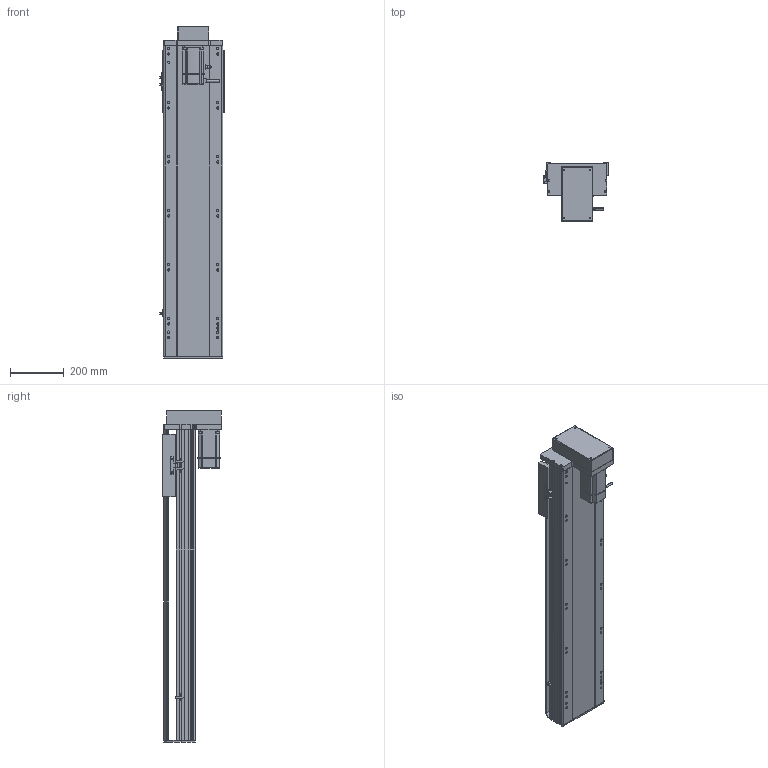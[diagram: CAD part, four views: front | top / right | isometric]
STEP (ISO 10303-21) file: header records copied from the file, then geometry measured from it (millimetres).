
FILE_DESCRIPTION (( 'STEP AP214' ), '1' );
FILE_NAME ('RTH22-XX-850-M-M75-C4.STEP', '2025-10-24T11:10:05', ( 'Microsoft' ), ( 'Microsoft' ), 'SwSTEP 2.0', 'SolidWorks 2018', '' );
FILE_SCHEMA (( 'AUTOMOTIVE_DESIGN' ));
Length unit declared in the file: millimetre
Products named in the file (10): N_RTH22-GY-013外置感应片^RTH22-XX-XX-M-M75-C4; N_RTH22-M-007奻裔^RTH22-XX-XX-M-M75-C4; N_RTH22-L-004-SFS25賑釱^RTH22-XX-XX-M-M75-C4; N_RTH22-L-011菁釱^RTH22-XX-XX-M-M75-C4; RTH22-XX-850-M-M75-C4; N_OMRON EE-SX672 传感器^RTH22-XX-XX-M-M75-C4; N_RTH22-GY-001耜裔^RTH22-XX-XX-M-M75-C4; N_750W萇儂^RTH22-XX-XX-M-M75-C4; N_RTH22-M-008-P75萇儂啣^RTH22-XX-XX-M-M75-C4; N_RTH22-M-018裔赽^RTH22-XX-XX-M-M75-C4
Assembly tree (11 placements, depth 2):
  RTH22-XX-850-M-M75-C4
    N_RTH22-L-011菁釱^RTH22-XX-XX-M-M75-C4
    N_RTH22-GY-001耜裔^RTH22-XX-XX-M-M75-C4
    N_750W萇儂^RTH22-XX-XX-M-M75-C4
    N_RTH22-M-008-P75萇儂啣^RTH22-XX-XX-M-M75-C4
    N_RTH22-M-007奻裔^RTH22-XX-XX-M-M75-C4
    N_RTH22-M-018裔赽^RTH22-XX-XX-M-M75-C4
    N_OMRON EE-SX672 传感器^RTH22-XX-XX-M-M75-C4  x3
    N_RTH22-GY-013外置感应片^RTH22-XX-XX-M-M75-C4
    N_RTH22-L-004-SFS25賑釱^RTH22-XX-XX-M-M75-C4
Bounding box: 238.5 x 218.5 x 1229.7 mm (x, y, z)
Volume: 17081041 mm3; surface area: 1893933.8 mm2
Topology: 11 solids, 11 shells, 1623 faces, 4430 edges, 2855 vertices
Faces by surface type: plane 807, cylinder 475, bspline 279, cone 62
Entity records: 40999 total; most frequent: CARTESIAN_POINT 12364, ORIENTED_EDGE 5828, DIRECTION 5508, EDGE_CURVE 2914, VERTEX_POINT 1891, AXIS2_PLACEMENT_3D 1851, VECTOR 1806, LINE 1806
